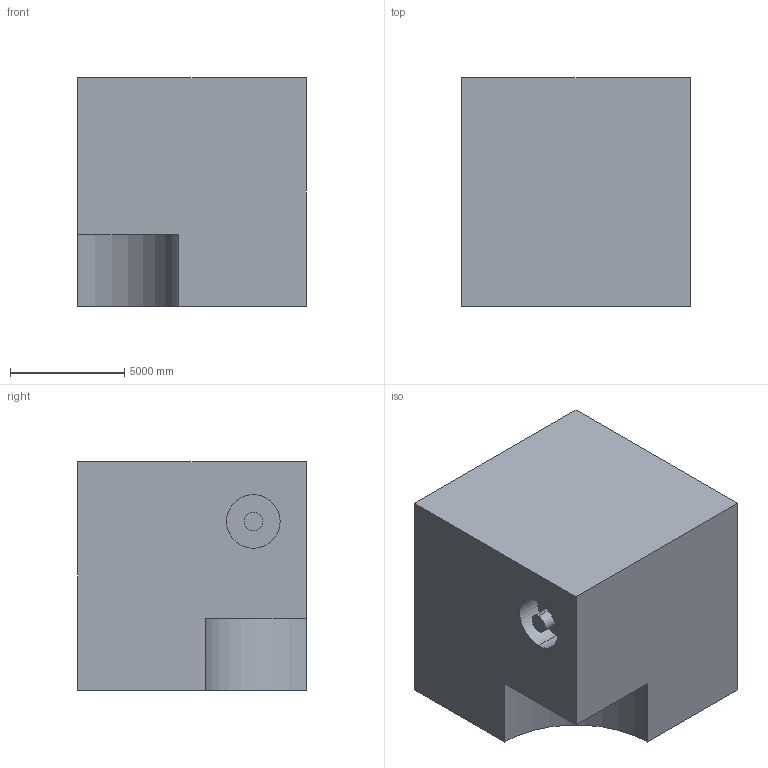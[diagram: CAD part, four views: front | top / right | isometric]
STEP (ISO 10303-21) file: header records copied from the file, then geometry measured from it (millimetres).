
FILE_DESCRIPTION (( 'STEP AP203' ), '1' );
FILE_NAME ('231.STEP', '2022-09-07T12:22:27', ( 'user' ), ( '' ), 'SwSTEP 2.0', 'SolidWorks 2021', '' );
FILE_SCHEMA (( 'CONFIG_CONTROL_DESIGN' ));
Length unit declared in the file: centimetre
Products named in the file (1): 231
Bounding box: 10000 x 10000 x 10000 mm (x, y, z)
Volume: 947916348961.8 mm3; surface area: 605061045.7 mm2
Topology: 1 solids, 1 shells, 14 faces, 30 edges, 20 vertices
Faces by surface type: plane 9, cylinder 5
Entity records: 461 total; most frequent: DIRECTION 70, CARTESIAN_POINT 65, ORIENTED_EDGE 60, EDGE_CURVE 30, AXIS2_PLACEMENT_3D 25, VERTEX_POINT 20, VECTOR 20, LINE 20
